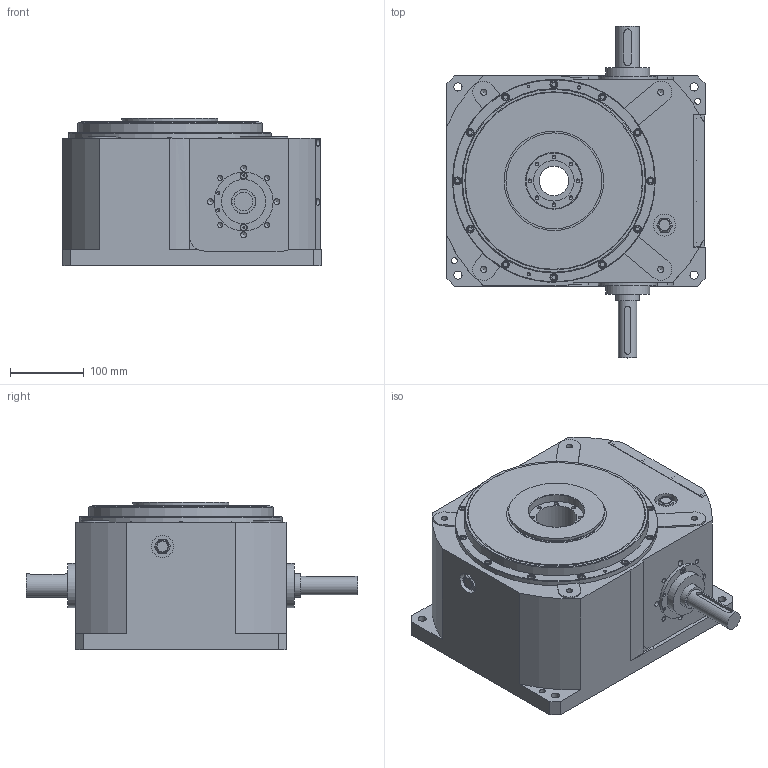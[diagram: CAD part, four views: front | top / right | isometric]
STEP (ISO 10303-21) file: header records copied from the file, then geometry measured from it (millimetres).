
FILE_DESCRIPTION( ( 'Unknown' ), '1' );
FILE_NAME( 'C:/Users/Diego/Desktop/NUOVO SITO WEB/STP/T35.stp', 'Unknown', ( 'Unknown' ), ( 'Unknown' ), 'PSStep 17.0.49', 'Unknown', ' ' );
FILE_SCHEMA( ( 'AUTOMOTIVE_DESIGN { 1 0 10303 214 1 1 1 1 }' ) );
Length unit declared in the file: millimetre
Products named in the file (12): Assem1; VITE_TCEI_M6x20_UNI5931; VITE_TCEI_M5x12_UNI5931; 213019; 215740; GRUPPO_USCITA_SCHEMATICO; 211015; 02674_; TAPPO_TCDF_58651; VITE_TCEI_M6x16_UNI5931; VITE TSEI M04x12 UNI5933
Assembly tree (35 placements, depth 2):
  Assem1
    VITE_TCEI_M6x20_UNI5931  x11
    VITE_TCEI_M5x12_UNI5931  x10
    213019
    215740
    GRUPPO_USCITA_SCHEMATICO
    GRUPPO_USCITA_SCHEMATICO
    211015
    02674_  x2
    TAPPO_TCDF_58651  x2
    VITE_TCEI_M6x16_UNI5931
    VITE TSEI M04x12 UNI5933  x4
Bounding box: 350 x 450 x 200 mm (x, y, z)
Volume: 8849868.7 mm3; surface area: 1048638.7 mm2
Topology: 35 solids, 35 shells, 1248 faces, 2848 edges, 1789 vertices
Faces by surface type: plane 611, cylinder 384, cone 148, torus 51, bspline 31, sphere 23
Full cylindrical faces by diameter (mm): 2.459 x2, 2.5 x2, 3 x1, 3.242 x6, 3.813 x4, 4 x4, 4.134 x14, 4.5 x6, 4.917 x21, 5 x20, 5.9 x10, 6 x28, 6.5 x12, 6.647 x8, 7.5 x1, 8 x14, 8.376 x6, 8.5 x10, 9.4 x10, 10 x14, 10.5 x12, 11 x4, 12 x2, 15 x2, 25 x1, 30 x2, 32 x4, 33 x2, 35 x4, 37 x1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
Entity records: 34344 total; most frequent: CARTESIAN_POINT 13266, DIRECTION 3346, ORIENTED_EDGE 2564, AXIS2_PLACEMENT_3D 1420, EDGE_CURVE 1282, EDGE_LOOP 1190, VERTEX_POINT 1009, FACE_OUTER_BOUND 927
